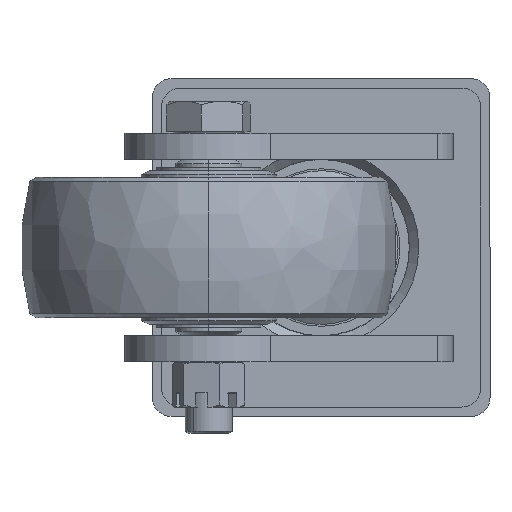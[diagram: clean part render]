
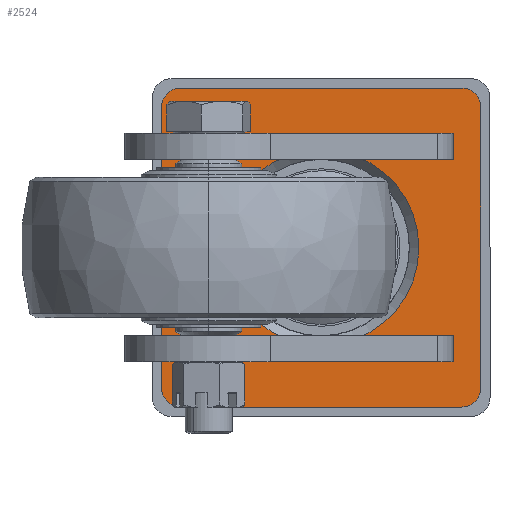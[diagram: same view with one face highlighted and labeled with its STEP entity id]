
A CAD part, front view. The second image highlights one B-rep face of the part: STEP entity #2524.
In plain terms, the highlighted planar face has unit normal (0, -1, 0).
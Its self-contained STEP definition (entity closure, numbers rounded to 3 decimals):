
#31 = AXIS2_PLACEMENT_3D ( 'NONE', #12193, #12277, #11207 ) ;
#85 = DIRECTION ( 'NONE',  ( 0., 1., 0. ) ) ;
#261 = ORIENTED_EDGE ( 'NONE', *, *, #5841, .F. ) ;
#310 = CARTESIAN_POINT ( 'NONE',  ( 117.505, -30.854, -75. ) ) ;
#469 = DIRECTION ( 'NONE',  ( 0., 0., -1. ) ) ;
#505 = DIRECTION ( 'NONE',  ( 0., 1., 0. ) ) ;
#539 = LINE ( 'NONE', #11885, #5264 ) ;
#756 = DIRECTION ( 'NONE',  ( 0., 0., -1. ) ) ;
#1056 = VECTOR ( 'NONE', #469, 1000. ) ;
#1325 = CARTESIAN_POINT ( 'NONE',  ( -52.495, -30.854, -85. ) ) ;
#1560 = ORIENTED_EDGE ( 'NONE', *, *, #6750, .F. ) ;
#1787 = AXIS2_PLACEMENT_3D ( 'NONE', #6334, #505, #10297 ) ;
#2034 = DIRECTION ( 'NONE',  ( 0., 1., 0. ) ) ;
#2075 = CIRCLE ( 'NONE', #1787, 52.1 ) ;
#2244 = ORIENTED_EDGE ( 'NONE', *, *, #7945, .F. ) ;
#2274 = VERTEX_POINT ( 'NONE', #8953 ) ;
#2282 = VERTEX_POINT ( 'NONE', #4445 ) ;
#2306 = ORIENTED_EDGE ( 'NONE', *, *, #6767, .T. ) ;
#2524 = ADVANCED_FACE ( 'NONE', ( #4939, #8862 ), #11804, .F. ) ;
#2592 = EDGE_LOOP ( 'NONE', ( #261, #3223, #1560, #10422, #10363, #5115, #2244, #2306 ) ) ;
#2861 = CARTESIAN_POINT ( 'NONE',  ( 32.505, -30.854, 52.1 ) ) ;
#2948 = ORIENTED_EDGE ( 'NONE', *, *, #10200, .T. ) ;
#3037 = VERTEX_POINT ( 'NONE', #2861 ) ;
#3102 = CARTESIAN_POINT ( 'NONE',  ( 107.505, -30.854, -75. ) ) ;
#3223 = ORIENTED_EDGE ( 'NONE', *, *, #10578, .T. ) ;
#3507 = LINE ( 'NONE', #10149, #9276 ) ;
#3722 = CARTESIAN_POINT ( 'NONE',  ( 107.505, -30.854, -85. ) ) ;
#3754 = CARTESIAN_POINT ( 'NONE',  ( 107.505, -30.854, 75. ) ) ;
#3762 = EDGE_CURVE ( 'NONE', #12011, #9837, #7358, .T. ) ;
#3832 = DIRECTION ( 'NONE',  ( 0., 0., -1. ) ) ;
#4199 = VERTEX_POINT ( 'NONE', #6499 ) ;
#4222 = LINE ( 'NONE', #1325, #1056 ) ;
#4445 = CARTESIAN_POINT ( 'NONE',  ( -52.495, -30.854, -75. ) ) ;
#4939 = FACE_OUTER_BOUND ( 'NONE', #2592, .T. ) ;
#5060 = DIRECTION ( 'NONE',  ( 0., 0., -1. ) ) ;
#5115 = ORIENTED_EDGE ( 'NONE', *, *, #12272, .T. ) ;
#5264 = VECTOR ( 'NONE', #8041, 1000. ) ;
#5396 = CIRCLE ( 'NONE', #9458, 10. ) ;
#5494 = CARTESIAN_POINT ( 'NONE',  ( -52.495, -30.854, 75. ) ) ;
#5603 = CARTESIAN_POINT ( 'NONE',  ( 117.505, -30.854, -85. ) ) ;
#5841 = EDGE_CURVE ( 'NONE', #9766, #7392, #9918, .T. ) ;
#6058 = DIRECTION ( 'NONE',  ( 0., 1., 0. ) ) ;
#6334 = CARTESIAN_POINT ( 'NONE',  ( 32.505, -30.854, 0. ) ) ;
#6499 = CARTESIAN_POINT ( 'NONE',  ( -42.495, -30.854, -85. ) ) ;
#6570 = DIRECTION ( 'NONE',  ( 0., 0., 1. ) ) ;
#6654 = VECTOR ( 'NONE', #6570, 1000. ) ;
#6659 = EDGE_CURVE ( 'NONE', #3037, #11389, #2075, .T. ) ;
#6706 = CARTESIAN_POINT ( 'NONE',  ( -42.495, -30.854, -75. ) ) ;
#6750 = EDGE_CURVE ( 'NONE', #4199, #2282, #10590, .T. ) ;
#6767 = EDGE_CURVE ( 'NONE', #11896, #7392, #539, .T. ) ;
#6862 = CARTESIAN_POINT ( 'NONE',  ( 32.505, -30.854, 0. ) ) ;
#7047 = CARTESIAN_POINT ( 'NONE',  ( -42.495, -30.854, 85. ) ) ;
#7090 = EDGE_LOOP ( 'NONE', ( #2948, #9950 ) ) ;
#7111 = AXIS2_PLACEMENT_3D ( 'NONE', #6862, #6058, #10744 ) ;
#7358 = CIRCLE ( 'NONE', #8979, 10. ) ;
#7392 = VERTEX_POINT ( 'NONE', #7047 ) ;
#7570 = CARTESIAN_POINT ( 'NONE',  ( 32.505, -30.854, -52.1 ) ) ;
#7620 = DIRECTION ( 'NONE',  ( 0., 1., 0. ) ) ;
#7748 = CARTESIAN_POINT ( 'NONE',  ( 107.505, -30.854, 85. ) ) ;
#7945 = EDGE_CURVE ( 'NONE', #11896, #2274, #5396, .T. ) ;
#8041 = DIRECTION ( 'NONE',  ( -1., 0., 0. ) ) ;
#8151 = LINE ( 'NONE', #5603, #6654 ) ;
#8862 = FACE_BOUND ( 'NONE', #7090, .T. ) ;
#8953 = CARTESIAN_POINT ( 'NONE',  ( 117.505, -30.854, 75. ) ) ;
#8979 = AXIS2_PLACEMENT_3D ( 'NONE', #3102, #2034, #5060 ) ;
#9276 = VECTOR ( 'NONE', #9982, 1000. ) ;
#9458 = AXIS2_PLACEMENT_3D ( 'NONE', #3754, #7620, #756 ) ;
#9589 = CIRCLE ( 'NONE', #31, 52.1 ) ;
#9635 = DIRECTION ( 'NONE',  ( 0., 0., -1. ) ) ;
#9669 = CARTESIAN_POINT ( 'NONE',  ( -42.495, -30.854, 75. ) ) ;
#9766 = VERTEX_POINT ( 'NONE', #5494 ) ;
#9837 = VERTEX_POINT ( 'NONE', #3722 ) ;
#9918 = CIRCLE ( 'NONE', #10661, 10. ) ;
#9950 = ORIENTED_EDGE ( 'NONE', *, *, #6659, .T. ) ;
#9982 = DIRECTION ( 'NONE',  ( 1., 0., 0. ) ) ;
#10143 = EDGE_CURVE ( 'NONE', #4199, #9837, #3507, .T. ) ;
#10149 = CARTESIAN_POINT ( 'NONE',  ( -52.495, -30.854, -85. ) ) ;
#10200 = EDGE_CURVE ( 'NONE', #11389, #3037, #9589, .T. ) ;
#10297 = DIRECTION ( 'NONE',  ( 0., 0., -1. ) ) ;
#10363 = ORIENTED_EDGE ( 'NONE', *, *, #3762, .F. ) ;
#10422 = ORIENTED_EDGE ( 'NONE', *, *, #10143, .T. ) ;
#10578 = EDGE_CURVE ( 'NONE', #9766, #2282, #4222, .T. ) ;
#10590 = CIRCLE ( 'NONE', #12237, 10. ) ;
#10661 = AXIS2_PLACEMENT_3D ( 'NONE', #9669, #85, #3832 ) ;
#10744 = DIRECTION ( 'NONE',  ( 0., 0., 1. ) ) ;
#11207 = DIRECTION ( 'NONE',  ( 0., 0., -1. ) ) ;
#11389 = VERTEX_POINT ( 'NONE', #7570 ) ;
#11684 = DIRECTION ( 'NONE',  ( 0., 1., 0. ) ) ;
#11804 = PLANE ( 'NONE',  #7111 ) ;
#11885 = CARTESIAN_POINT ( 'NONE',  ( -52.495, -30.854, 85. ) ) ;
#11896 = VERTEX_POINT ( 'NONE', #7748 ) ;
#12011 = VERTEX_POINT ( 'NONE', #310 ) ;
#12193 = CARTESIAN_POINT ( 'NONE',  ( 32.505, -30.854, 0. ) ) ;
#12237 = AXIS2_PLACEMENT_3D ( 'NONE', #6706, #11684, #9635 ) ;
#12272 = EDGE_CURVE ( 'NONE', #12011, #2274, #8151, .T. ) ;
#12277 = DIRECTION ( 'NONE',  ( 0., 1., 0. ) ) ;
